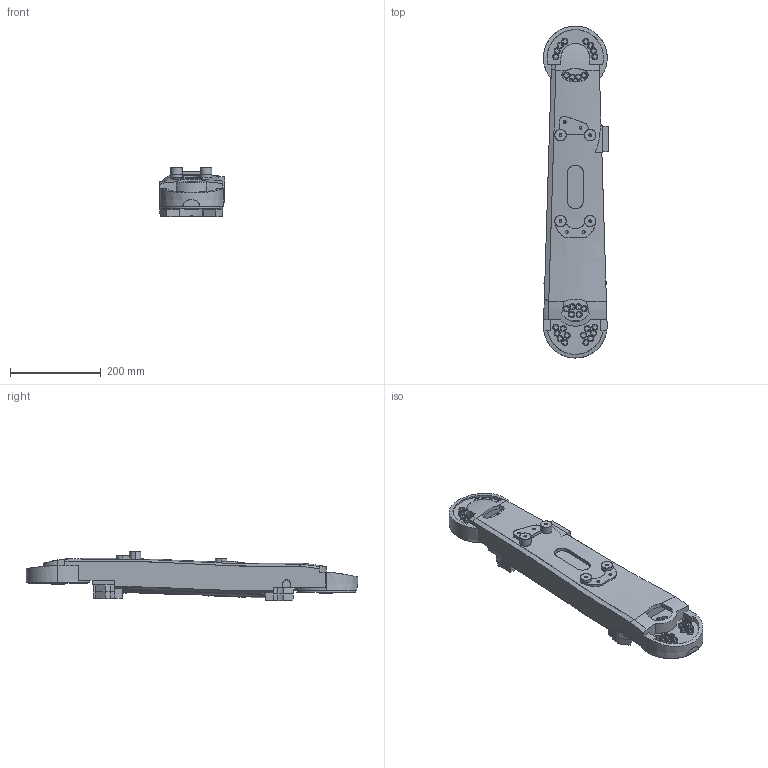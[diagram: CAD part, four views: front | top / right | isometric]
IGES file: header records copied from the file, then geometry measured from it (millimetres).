
Start section: SolidWorks IGES file using analytic representation for surfaces
Global section: file name: C:\2\Original\IRB1520ID_4_150__02_link2_iges_j.IGS; native system: SolidWorks 2010; preprocessor: SolidWorks 2010; author: CNWESUN5; date: 130409.125920; units: millimetre
Bounding box: 143 x 730 x 109 mm (x, y, z)
Surface area: 342314.4 mm2 (no closed solid volume)
Topology: 0 solids, 0 shells, 675 faces, 8901 edges, 8901 vertices
Faces by surface type: bspline 509, revolution 166
